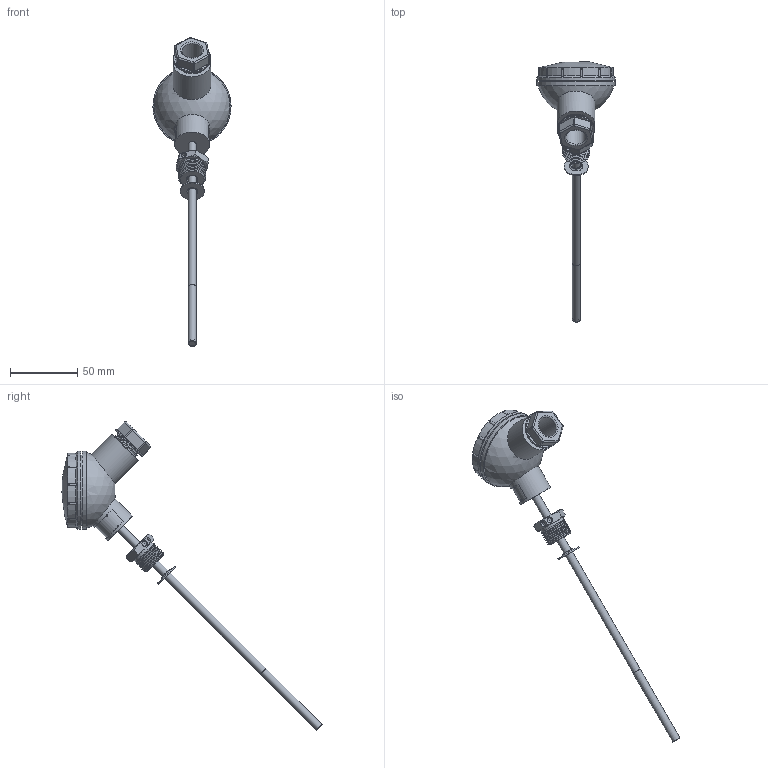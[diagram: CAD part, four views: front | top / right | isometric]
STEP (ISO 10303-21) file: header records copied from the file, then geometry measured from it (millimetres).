
FILE_DESCRIPTION(('STEP AP242'), '1');
FILE_NAME('栖闉罻 3.1.05.02', '', ('UNSPECIFIED'), ('UNSPECIFIED'), 'ASCON STEP Converter 1.6', 'ASCON Math Kernel', '');
FILE_SCHEMA(('AP242_MANAGED_MODEL_BASED_3D_ENGINEERING_MIM_LF { 1 0 10303 442 1 1 4 }'));
Length unit declared in the file: millimetre
Products named in the file (13): Сборка405111-001угл; Шайба 758480-006; Шайба 4; Прокладка 754100-000; Винт 715341-000; Гайка М4; Заглушка 754100-001; Крышка 735214-000; Кожух 731196-000-00; Шайба 758480-001-01; Трубка 723110-004; Гайка 758480-000
Assembly tree (21 placements, depth 3):
  Сборка405111-001угл
    Шайба 758480-006  x4
    Шайба 4  x4
    Прокладка 754100-000
    Винт 715341-000
    Гайка М4  x4
    Заглушка 754100-001
    Крышка 735214-000
    Кожух 731196-000-00
    (unnamed)
      Шайба 758480-001-01
      Трубка 723110-004
      Гайка 758480-000
Bounding box: 58 x 193.09 x 229.14 mm (x, y, z)
Volume: 71108.1 mm3; surface area: 46580 mm2
Topology: 23 solids, 23 shells, 561 faces, 1421 edges, 901 vertices
Faces by surface type: cylinder 238, plane 189, bspline 56, cone 54, torus 16, sphere 8
Full cylindrical faces by diameter (mm): 1.6 x1, 4 x7, 4.2 x4, 5 x2, 6 x5, 6.5 x1, 9 x4, 12 x2, 15 x1, 15.4 x1, 18 x1, 18.94 x1, 19.2 x1, 20 x1, 26 x1, 28 x2, 44 x1, 47 x2, 48 x1, 52 x1, 53 x1, 54 x1, 55 x1, 58 x2
Entity records: 90200 total; most frequent: CARTESIAN_POINT 75956, ORIENTED_EDGE 2154, DIRECTION 1670, EDGE_CURVE 1077, VERTEX_POINT 731, AXIS2_PLACEMENT_3D 677, EDGE_LOOP 560, B_SPLINE_CURVE_WITH_KNOTS 484
